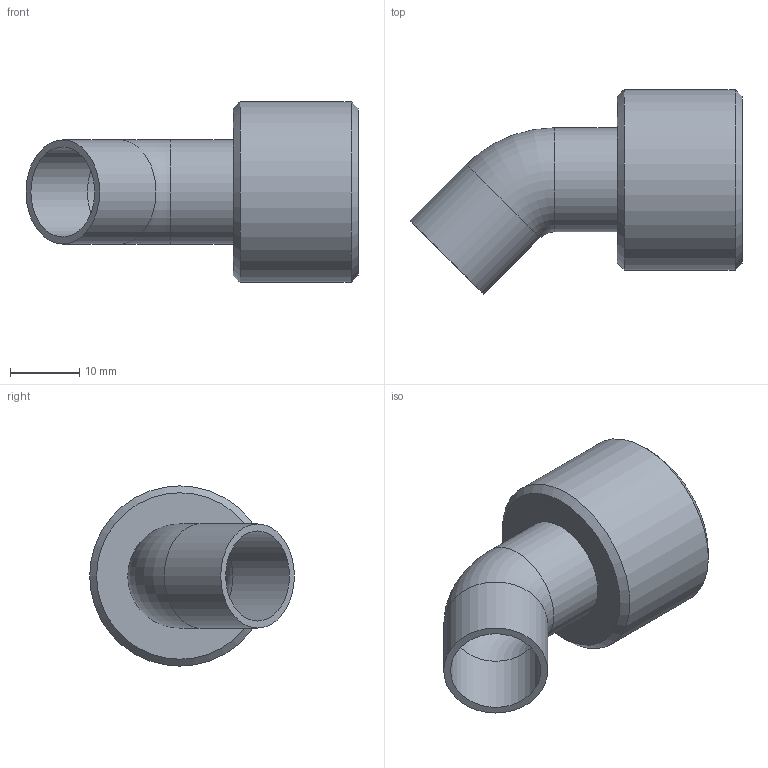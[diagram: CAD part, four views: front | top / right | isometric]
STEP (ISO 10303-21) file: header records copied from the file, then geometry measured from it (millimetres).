
FILE_DESCRIPTION( ( 'STEP AP203' ), '1' );
FILE_NAME( 'C:/Temp/Ganter_Step_05_03_2020/data/3_5/gn880_1/gn880_1_ans/gn880_1_b/Connector piece withot drain hose GN 880.1-22-B.stp', '2020-03-12T13:42:25', ( 'License CC BY-ND 4.0' ), ( 'CADENAS' ), ' ', 'PARTsolutions', ' ' );
FILE_SCHEMA( ( 'CONFIG_CONTROL_DESIGN' ) );
Length unit declared in the file: millimetre
Products named in the file (3): Connector piece withot drain hose GN 880.1-22-B; _Anschlussstueck ohne Ablassschlauch GN 880.1-22-B_a; _Anschlussstueck ohne Ablassschlauch GN 880.1-22-B_dk2
Assembly tree (2 placements, depth 2):
  Connector piece withot drain hose GN 880.1-22-B
    _Anschlussstueck ohne Ablassschlauch GN 880.1-22-B_a
    _Anschlussstueck ohne Ablassschlauch GN 880.1-22-B_dk2
Bounding box: 47.86 x 29.51 x 26 mm (x, y, z)
Volume: 7863.9 mm3; surface area: 7633.7 mm2
Topology: 2 solids, 2 shells, 33 faces, 54 edges, 34 vertices
Faces by surface type: cylinder 13, plane 13, torus 4, cone 3
Full cylindrical faces by diameter (mm): 8.5 x1, 9.5 x1, 10.5 x2, 13 x2, 15 x4, 20 x1, 20.376 x1, 26 x1
Entity records: 770 total; most frequent: DIRECTION 136, CARTESIAN_POINT 101, AXIS2_PLACEMENT_3D 68, EDGE_LOOP 64, ORIENTED_EDGE 64, FACE_OUTER_BOUND 50, ADVANCED_FACE 33, VERTEX_POINT 33
